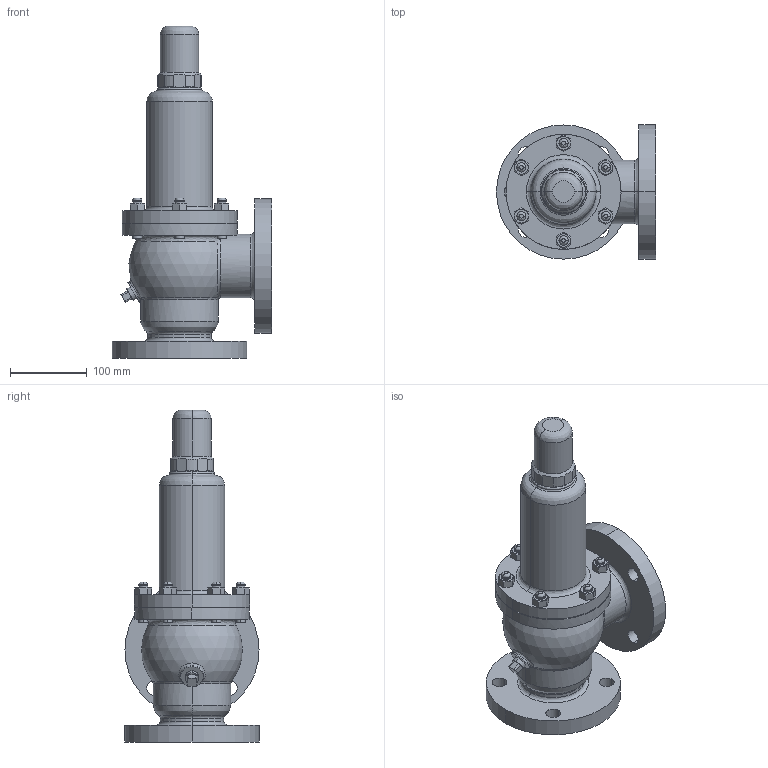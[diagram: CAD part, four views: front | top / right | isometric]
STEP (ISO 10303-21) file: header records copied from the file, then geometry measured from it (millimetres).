
FILE_DESCRIPTION( (''), '2;1');
FILE_NAME ('PC1027.9568.AL-4(65A)JIS10K 3D_672.stp','2025-07-28T13:02:07',(''),(''),'spGate 19.8.4 (****-****-****-****)','','');
FILE_SCHEMA (('AUTOMOTIVE_DESIGN'));
Length unit declared in the file: millimetre
Bounding box: 207.5 x 175 x 433 mm (x, y, z)
Volume: 4118108 mm3; surface area: 280635.8 mm2
Topology: 1 solids, 1 shells, 250 faces, 609 edges, 381 vertices
Faces by surface type: cylinder 90, bspline 80, plane 79, sphere 1
Entity records: 13671 total; most frequent: CARTESIAN_POINT 3541, ORIENTED_EDGE 1214, DIRECTION 970, COLOUR_RGB 858, PRESENTATION_STYLE_ASSIGNMENT 858, STYLED_ITEM 858, EDGE_CURVE 607, DRAUGHTING_PRE_DEFINED_CURVE_FONT 607
